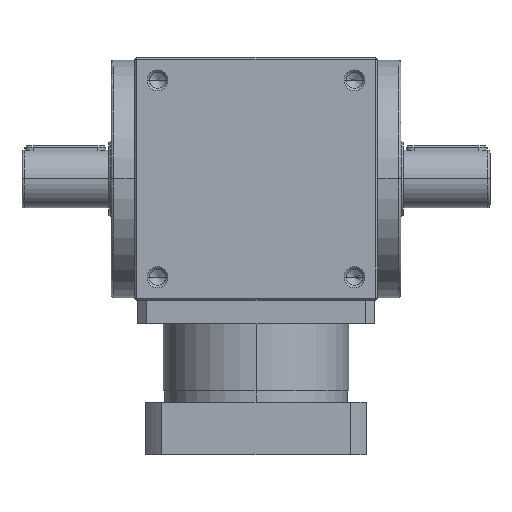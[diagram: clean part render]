
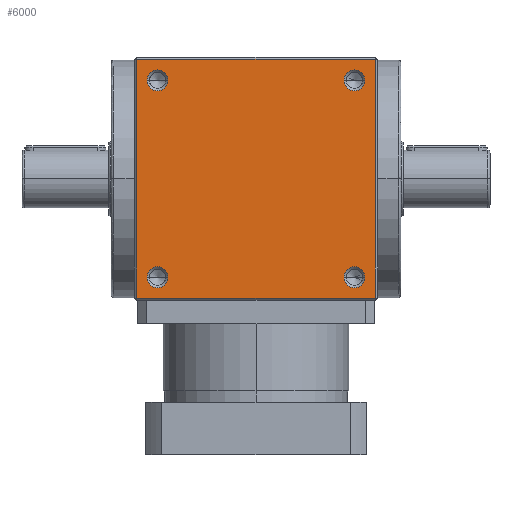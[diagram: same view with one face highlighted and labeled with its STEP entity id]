
A CAD part, top view. The second image highlights one B-rep face of the part: STEP entity #6000.
In plain terms, the highlighted planar face has unit normal (0, 0, 1).
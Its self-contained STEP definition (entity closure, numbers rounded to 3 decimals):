
#88 = DIRECTION ( 'NONE',  ( 1., 0., 0. ) ) ;
#221 = CARTESIAN_POINT ( 'NONE',  ( 103., 0., 105. ) ) ;
#236 = EDGE_LOOP ( 'NONE', ( #1094, #3044 ) ) ;
#297 = CIRCLE ( 'NONE', #11839, 9. ) ;
#310 = ORIENTED_EDGE ( 'NONE', *, *, #8713, .F. ) ;
#430 = VERTEX_POINT ( 'NONE', #5329 ) ;
#436 = FACE_BOUND ( 'NONE', #9937, .T. ) ;
#530 = LINE ( 'NONE', #5576, #6752 ) ;
#590 = ORIENTED_EDGE ( 'NONE', *, *, #9071, .F. ) ;
#803 = AXIS2_PLACEMENT_3D ( 'NONE', #1811, #1800, #1791 ) ;
#1009 = DIRECTION ( 'NONE',  ( 1., 0., 0. ) ) ;
#1013 = CARTESIAN_POINT ( 'NONE',  ( -94., 85., 105. ) ) ;
#1027 = DIRECTION ( 'NONE',  ( 0., 0., 1. ) ) ;
#1084 = CARTESIAN_POINT ( 'NONE',  ( -85., 85., 105. ) ) ;
#1094 = ORIENTED_EDGE ( 'NONE', *, *, #9017, .F. ) ;
#1278 = AXIS2_PLACEMENT_3D ( 'NONE', #10628, #10597, #3199 ) ;
#1397 = VERTEX_POINT ( 'NONE', #9049 ) ;
#1531 = DIRECTION ( 'NONE',  ( 0., 0., 1. ) ) ;
#1625 = VERTEX_POINT ( 'NONE', #3221 ) ;
#1791 = DIRECTION ( 'NONE',  ( 1., 0., 0. ) ) ;
#1800 = DIRECTION ( 'NONE',  ( 0., 0., 1. ) ) ;
#1811 = CARTESIAN_POINT ( 'NONE',  ( 85., 85., 105. ) ) ;
#2035 = AXIS2_PLACEMENT_3D ( 'NONE', #1084, #1027, #1009 ) ;
#2112 = CARTESIAN_POINT ( 'NONE',  ( -76., 85., 105. ) ) ;
#2437 = ORIENTED_EDGE ( 'NONE', *, *, #7611, .F. ) ;
#2724 = VECTOR ( 'NONE', #5089, 1000. ) ;
#3044 = ORIENTED_EDGE ( 'NONE', *, *, #8347, .F. ) ;
#3170 = VERTEX_POINT ( 'NONE', #3698 ) ;
#3199 = DIRECTION ( 'NONE',  ( -1., 0., 0. ) ) ;
#3221 = CARTESIAN_POINT ( 'NONE',  ( 103., 103., 105. ) ) ;
#3291 = CIRCLE ( 'NONE', #8125, 9. ) ;
#3298 = EDGE_LOOP ( 'NONE', ( #8241, #8261, #9739, #9671 ) ) ;
#3462 = ORIENTED_EDGE ( 'NONE', *, *, #5148, .F. ) ;
#3565 = VERTEX_POINT ( 'NONE', #1013 ) ;
#3698 = CARTESIAN_POINT ( 'NONE',  ( -103., 103., 105. ) ) ;
#4343 = CARTESIAN_POINT ( 'NONE',  ( 76., -85., 105. ) ) ;
#4574 = VERTEX_POINT ( 'NONE', #8106 ) ;
#4636 = DIRECTION ( 'NONE',  ( -1., 0., 0. ) ) ;
#4673 = EDGE_CURVE ( 'NONE', #1625, #3170, #10917, .T. ) ;
#4719 = CARTESIAN_POINT ( 'NONE',  ( 0., -103., 105. ) ) ;
#4776 = EDGE_CURVE ( 'NONE', #5989, #3170, #530, .T. ) ;
#4811 = CARTESIAN_POINT ( 'NONE',  ( 103., -103., 105. ) ) ;
#4824 = EDGE_CURVE ( 'NONE', #5558, #5989, #6127, .T. ) ;
#4990 = CIRCLE ( 'NONE', #11808, 9. ) ;
#5089 = DIRECTION ( 'NONE',  ( 0., -1., 0. ) ) ;
#5130 = VECTOR ( 'NONE', #4636, 1000. ) ;
#5148 = EDGE_CURVE ( 'NONE', #3565, #8692, #6406, .T. ) ;
#5329 = CARTESIAN_POINT ( 'NONE',  ( 94., -85., 105. ) ) ;
#5380 = CIRCLE ( 'NONE', #9187, 9. ) ;
#5558 = VERTEX_POINT ( 'NONE', #4811 ) ;
#5576 = CARTESIAN_POINT ( 'NONE',  ( -103., 0., 105. ) ) ;
#5616 = DIRECTION ( 'NONE',  ( 0., 1., 0. ) ) ;
#5742 = DIRECTION ( 'NONE',  ( 0., 0., 1. ) ) ;
#5859 = DIRECTION ( 'NONE',  ( 1., 0., 0. ) ) ;
#5891 = DIRECTION ( 'NONE',  ( 0., 0., 1. ) ) ;
#5904 = CARTESIAN_POINT ( 'NONE',  ( -85., 85., 105. ) ) ;
#5910 = ORIENTED_EDGE ( 'NONE', *, *, #11036, .F. ) ;
#5989 = VERTEX_POINT ( 'NONE', #10816 ) ;
#6000 = ADVANCED_FACE ( 'NONE', ( #6102, #11862, #7312, #9142, #436 ), #11529, .F. ) ;
#6059 = CIRCLE ( 'NONE', #10553, 9. ) ;
#6062 = VERTEX_POINT ( 'NONE', #10319 ) ;
#6102 = FACE_OUTER_BOUND ( 'NONE', #3298, .T. ) ;
#6127 = LINE ( 'NONE', #4719, #5130 ) ;
#6145 = EDGE_LOOP ( 'NONE', ( #2437, #3462 ) ) ;
#6406 = CIRCLE ( 'NONE', #2035, 9. ) ;
#6577 = EDGE_CURVE ( 'NONE', #11298, #6062, #8432, .T. ) ;
#6634 = DIRECTION ( 'NONE',  ( -1., 0., 0. ) ) ;
#6644 = EDGE_CURVE ( 'NONE', #1625, #5558, #9963, .T. ) ;
#6647 = CARTESIAN_POINT ( 'NONE',  ( 0., 103., 105. ) ) ;
#6752 = VECTOR ( 'NONE', #5616, 1000. ) ;
#6766 = DIRECTION ( 'NONE',  ( 1., 0., 0. ) ) ;
#6805 = DIRECTION ( 'NONE',  ( 0., 0., 1. ) ) ;
#6823 = CARTESIAN_POINT ( 'NONE',  ( -85., -85., 105. ) ) ;
#7178 = DIRECTION ( 'NONE',  ( 1., 0., 0. ) ) ;
#7212 = DIRECTION ( 'NONE',  ( 0., 0., 1. ) ) ;
#7256 = CARTESIAN_POINT ( 'NONE',  ( -85., -85., 105. ) ) ;
#7312 = FACE_BOUND ( 'NONE', #9564, .T. ) ;
#7377 = VERTEX_POINT ( 'NONE', #4343 ) ;
#7611 = EDGE_CURVE ( 'NONE', #8692, #3565, #3291, .T. ) ;
#7834 = CARTESIAN_POINT ( 'NONE',  ( 85., -85., 105. ) ) ;
#8106 = CARTESIAN_POINT ( 'NONE',  ( -94., -85., 105. ) ) ;
#8125 = AXIS2_PLACEMENT_3D ( 'NONE', #5904, #5891, #5859 ) ;
#8196 = CARTESIAN_POINT ( 'NONE',  ( 85., -85., 105. ) ) ;
#8214 = DIRECTION ( 'NONE',  ( 0., 0., 1. ) ) ;
#8241 = ORIENTED_EDGE ( 'NONE', *, *, #4824, .F. ) ;
#8261 = ORIENTED_EDGE ( 'NONE', *, *, #6644, .F. ) ;
#8269 = DIRECTION ( 'NONE',  ( 1., 0., 0. ) ) ;
#8301 = CARTESIAN_POINT ( 'NONE',  ( 76., 85., 105. ) ) ;
#8347 = EDGE_CURVE ( 'NONE', #4574, #1397, #6059, .T. ) ;
#8432 = CIRCLE ( 'NONE', #803, 9. ) ;
#8692 = VERTEX_POINT ( 'NONE', #2112 ) ;
#8713 = EDGE_CURVE ( 'NONE', #7377, #430, #4990, .T. ) ;
#9017 = EDGE_CURVE ( 'NONE', #1397, #4574, #297, .T. ) ;
#9049 = CARTESIAN_POINT ( 'NONE',  ( -76., -85., 105. ) ) ;
#9071 = EDGE_CURVE ( 'NONE', #430, #7377, #11055, .T. ) ;
#9142 = FACE_BOUND ( 'NONE', #236, .T. ) ;
#9187 = AXIS2_PLACEMENT_3D ( 'NONE', #11333, #5742, #88 ) ;
#9564 = EDGE_LOOP ( 'NONE', ( #5910, #11210 ) ) ;
#9671 = ORIENTED_EDGE ( 'NONE', *, *, #4776, .F. ) ;
#9739 = ORIENTED_EDGE ( 'NONE', *, *, #4673, .T. ) ;
#9937 = EDGE_LOOP ( 'NONE', ( #590, #310 ) ) ;
#9963 = LINE ( 'NONE', #221, #2724 ) ;
#10136 = DIRECTION ( 'NONE',  ( 1., 0., 0. ) ) ;
#10319 = CARTESIAN_POINT ( 'NONE',  ( 94., 85., 105. ) ) ;
#10480 = VECTOR ( 'NONE', #6634, 1000. ) ;
#10553 = AXIS2_PLACEMENT_3D ( 'NONE', #6823, #6805, #6766 ) ;
#10597 = DIRECTION ( 'NONE',  ( 0., 0., -1. ) ) ;
#10628 = CARTESIAN_POINT ( 'NONE',  ( 0., 0., 105. ) ) ;
#10816 = CARTESIAN_POINT ( 'NONE',  ( -103., -103., 105. ) ) ;
#10917 = LINE ( 'NONE', #6647, #10480 ) ;
#11036 = EDGE_CURVE ( 'NONE', #6062, #11298, #5380, .T. ) ;
#11055 = CIRCLE ( 'NONE', #11710, 9. ) ;
#11210 = ORIENTED_EDGE ( 'NONE', *, *, #6577, .F. ) ;
#11298 = VERTEX_POINT ( 'NONE', #8301 ) ;
#11333 = CARTESIAN_POINT ( 'NONE',  ( 85., 85., 105. ) ) ;
#11529 = PLANE ( 'NONE',  #1278 ) ;
#11710 = AXIS2_PLACEMENT_3D ( 'NONE', #8196, #1531, #10136 ) ;
#11808 = AXIS2_PLACEMENT_3D ( 'NONE', #7834, #8214, #8269 ) ;
#11839 = AXIS2_PLACEMENT_3D ( 'NONE', #7256, #7212, #7178 ) ;
#11862 = FACE_BOUND ( 'NONE', #6145, .T. ) ;
